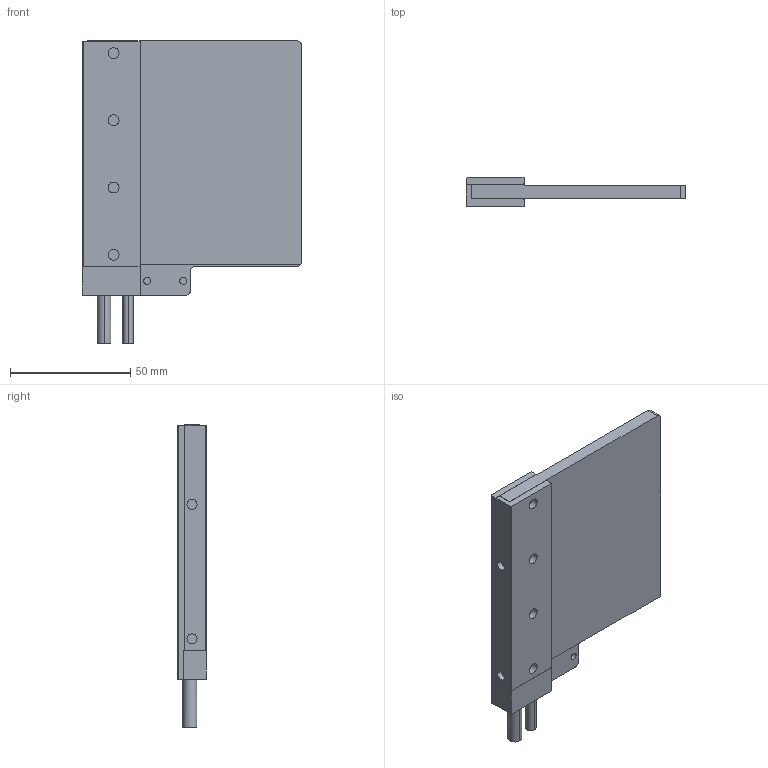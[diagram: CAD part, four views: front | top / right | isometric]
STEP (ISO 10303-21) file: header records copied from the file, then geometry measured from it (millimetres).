
FILE_DESCRIPTION (( 'STEP AP203' ), '1' );
FILE_NAME ('IL3-91 assembly 3D.STEP', '2018-08-11T03:18:54', ( '' ), ( '' ), 'SwSTEP 2.0', 'SolidWorks 2018', '' );
FILE_SCHEMA (( 'CONFIG_CONTROL_DESIGN' ));
Length unit declared in the file: millimetre
Products named in the file (1): IL3-91 assembly 3D
Bounding box: 91.3 x 12 x 126 mm (x, y, z)
Volume: 66396.2 mm3; surface area: 33907.1 mm2
Topology: 3 solids, 3 shells, 129 faces, 346 edges, 223 vertices
Faces by surface type: cylinder 60, plane 57, cone 12
Entity records: 4186 total; most frequent: CARTESIAN_POINT 744, DIRECTION 721, ORIENTED_EDGE 684, EDGE_CURVE 342, AXIS2_PLACEMENT_3D 256, VERTEX_POINT 223, LINE 209, VECTOR 209
